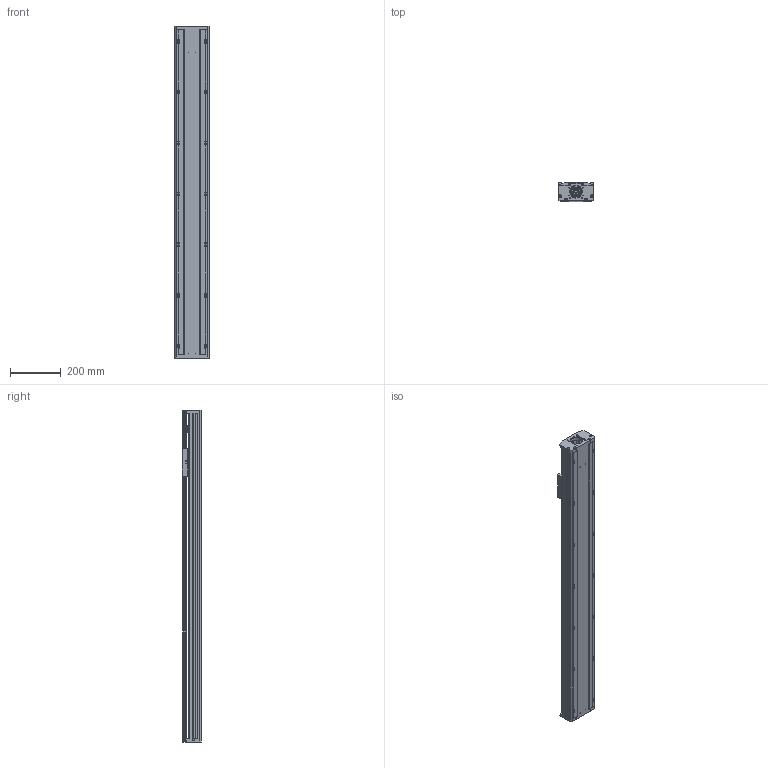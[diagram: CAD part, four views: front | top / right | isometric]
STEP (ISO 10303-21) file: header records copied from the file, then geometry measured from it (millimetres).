
FILE_DESCRIPTION(/* description */ (''),/* implementation_level */ '2;1');
FILE_NAME(/* name */ 'TKA136-F0-1050_asm1.stp',/* time_stamp */ '2016-08-25T15:57:41+08:00',/* author */ (''),/* organization */ (''),/* preprocessor_version */ 'ST-DEVELOPER v15',/* originating_system */ 'SIEMENS PLM Software NX 8.5',/* authorisation */ '');
FILE_SCHEMA (('AUTOMOTIVE_DESIGN { 1 0 10303 214 3 1 1 1 }'));
Length unit declared in the file: millimetre
Products named in the file (3): 1000-02; 1000-01; TKA136-F0-1050_asm1
Assembly tree (2 placements, depth 2):
  TKA136-F0-1050_asm1
    1000-01
    1000-02
Bounding box: 136 x 75 x 1307 mm (x, y, z)
Volume: 3974170.7 mm3; surface area: 1484535.2 mm2
Topology: 2 solids, 12 shells, 845 faces, 2419 edges, 1580 vertices
Faces by surface type: cylinder 404, plane 387, cone 54
Full cylindrical faces by diameter (mm): 2.5 x4, 3 x2, 3.3 x12, 4 x4, 4.2 x10, 4.5 x20, 5 x18, 5.5 x26, 6.6 x18, 8 x20, 10 x9, 10.5 x14, 11 x4, 11.6 x1, 12 x9, 15 x3, 16 x5, 17 x1, 24 x5, 26 x1, 28 x1, 46 x1, 50 x1
Entity records: 28764 total; most frequent: CARTESIAN_POINT 7980, DIRECTION 4277, ORIENTED_EDGE 4060, EDGE_CURVE 2030, AXIS2_PLACEMENT_3D 1631, VERTEX_POINT 1460, EDGE_LOOP 1240, LINE 1015
